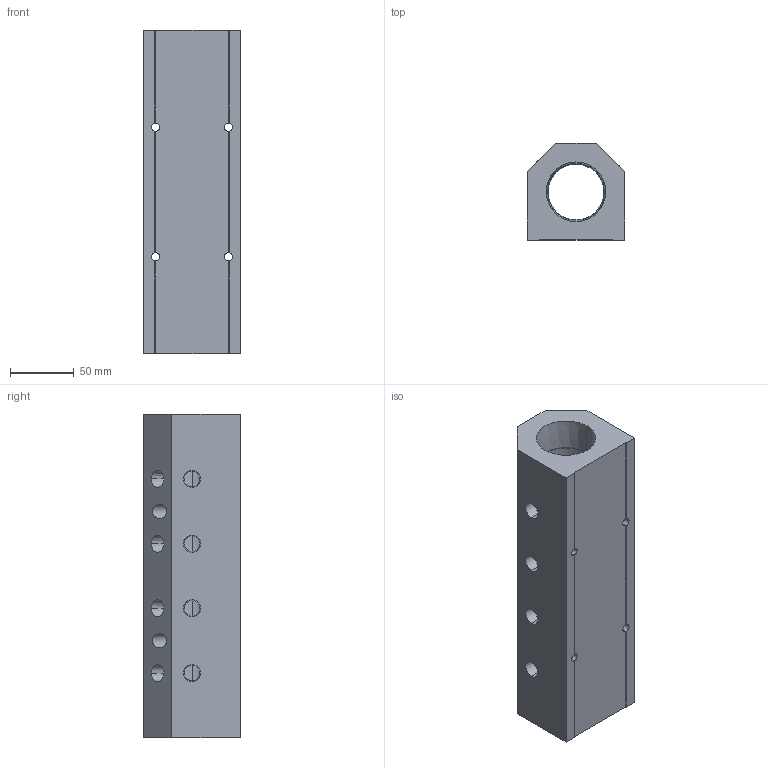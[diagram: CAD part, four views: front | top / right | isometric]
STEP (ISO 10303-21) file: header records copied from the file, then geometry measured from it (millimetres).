
FILE_DESCRIPTION (( 'STEP AP214' ), '1' );
FILE_NAME ('ALM4ABC-N4N24-254B.step', '2022-02-07T07:46:12', ( '' ), ( '' ), 'SwSTEP 2.0', 'SolidWorks 2020', '' );
FILE_SCHEMA (( 'AUTOMOTIVE_DESIGN' ));
Length unit declared in the file: millimetre
Products named in the file (1): ALM4ABC-N4N24-254B
Bounding box: 76.2 x 76.2 x 254 mm (x, y, z)
Volume: 913676.4 mm3; surface area: 123942.3 mm2
Topology: 1 solids, 1 shells, 347 faces, 923 edges, 610 vertices
Faces by surface type: plane 248, bspline 53, cone 28, cylinder 18
Entity records: 18497 total; most frequent: CARTESIAN_POINT 6898, ORIENTED_EDGE 1846, DIRECTION 1427, EDGE_CURVE 923, LINE 717, VECTOR 717, VERTEX_POINT 610, EDGE_LOOP 413
